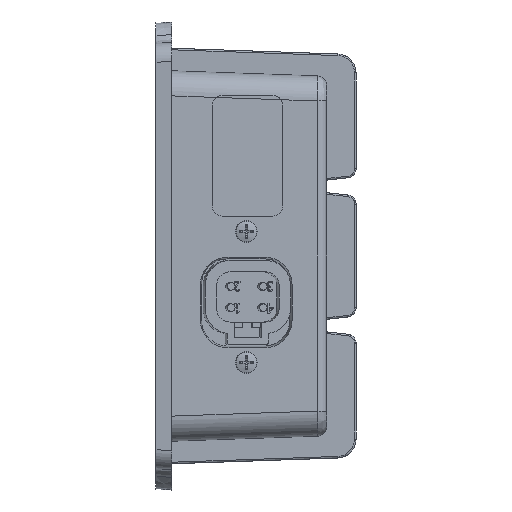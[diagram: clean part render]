
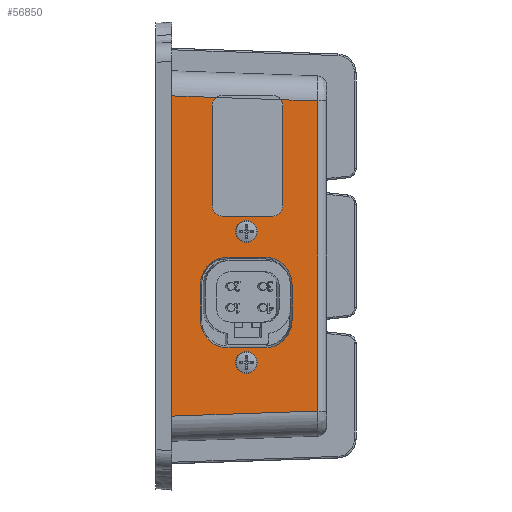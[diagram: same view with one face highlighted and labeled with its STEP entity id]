
A CAD part, left-side view. The second image highlights one B-rep face of the part: STEP entity #56850.
In plain terms, the highlighted planar face has unit normal (-0.999, -0.035, 0).
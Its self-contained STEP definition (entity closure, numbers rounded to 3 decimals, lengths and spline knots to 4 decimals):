
#598=FACE_BOUND('',#16203,.T.);
#599=FACE_BOUND('',#16204,.T.);
#600=FACE_BOUND('',#16205,.T.);
#8362=CIRCLE('',#59204,0.125);
#8365=CIRCLE('',#59209,0.125);
#8367=CIRCLE('',#59213,0.125);
#8370=CIRCLE('',#59218,0.125);
#8454=CIRCLE('',#59442,0.135);
#8476=CIRCLE('',#59499,0.135);
#9444=CIRCLE('',#62933,0.342);
#9445=CIRCLE('',#62934,0.342);
#9446=CIRCLE('',#62935,0.342);
#9447=CIRCLE('',#62936,0.342);
#12669=FACE_OUTER_BOUND('',#16202,.T.);
#16202=EDGE_LOOP('',(#51927,#51928,#51929,#51930,#51931,#51932,#51933,#51934,
#51935,#51936,#51937,#51938));
#16203=EDGE_LOOP('',(#51939));
#16204=EDGE_LOOP('',(#51940));
#16205=EDGE_LOOP('',(#51941,#51942,#51943,#51944,#51945,#51946,#51947,#51948));
#17791=LINE('',#104095,#21580);
#17795=LINE('',#104107,#21584);
#17799=LINE('',#104119,#21588);
#17899=LINE('',#105345,#21688);
#18543=LINE('',#108930,#22332);
#18936=LINE('',#110360,#22725);
#18937=LINE('',#110362,#22726);
#20069=LINE('',#127421,#23858);
#20071=LINE('',#127459,#23860);
#20072=LINE('',#127463,#23861);
#20073=LINE('',#127467,#23862);
#20074=LINE('',#127471,#23863);
#21580=VECTOR('',#68891,0.3937);
#21584=VECTOR('',#68903,0.3937);
#21588=VECTOR('',#68915,0.3937);
#21688=VECTOR('',#69637,0.3937);
#22332=VECTOR('',#71219,0.3937);
#22725=VECTOR('',#72344,0.3937);
#22726=VECTOR('',#72345,0.3937);
#23858=VECTOR('',#78613,0.3937);
#23860=VECTOR('',#78623,0.3937);
#23861=VECTOR('',#78626,0.3937);
#23862=VECTOR('',#78629,0.3937);
#23863=VECTOR('',#78632,0.3937);
#25726=VERTEX_POINT('',#104083);
#25727=VERTEX_POINT('',#104085);
#25730=VERTEX_POINT('',#104093);
#25732=VERTEX_POINT('',#104099);
#25734=VERTEX_POINT('',#104105);
#25736=VERTEX_POINT('',#104111);
#25738=VERTEX_POINT('',#104117);
#25741=VERTEX_POINT('',#104125);
#25925=VERTEX_POINT('',#105049);
#25967=VERTEX_POINT('',#105260);
#26008=VERTEX_POINT('',#105342);
#26009=VERTEX_POINT('',#105344);
#26865=VERTEX_POINT('',#108928);
#27537=VERTEX_POINT('',#110361);
#28715=VERTEX_POINT('',#127457);
#28716=VERTEX_POINT('',#127458);
#28717=VERTEX_POINT('',#127460);
#28718=VERTEX_POINT('',#127462);
#28719=VERTEX_POINT('',#127464);
#28720=VERTEX_POINT('',#127466);
#28721=VERTEX_POINT('',#127468);
#28722=VERTEX_POINT('',#127470);
#31661=EDGE_CURVE('',#25727,#25726,#8362,.T.);
#31666=EDGE_CURVE('',#25726,#25730,#17791,.T.);
#31669=EDGE_CURVE('',#25730,#25732,#8365,.T.);
#31672=EDGE_CURVE('',#25732,#25734,#17795,.T.);
#31675=EDGE_CURVE('',#25734,#25736,#8367,.T.);
#31678=EDGE_CURVE('',#25736,#25738,#17799,.T.);
#31682=EDGE_CURVE('',#25738,#25741,#8370,.T.);
#31957=EDGE_CURVE('',#25925,#25925,#8454,.T.);
#32019=EDGE_CURVE('',#25967,#25967,#8476,.T.);
#32060=EDGE_CURVE('',#26009,#26008,#17899,.T.);
#33128=EDGE_CURVE('',#26865,#26008,#18543,.T.);
#33852=EDGE_CURVE('',#26009,#25741,#18936,.T.);
#33853=EDGE_CURVE('',#25727,#27537,#18937,.T.);
#36539=EDGE_CURVE('',#27537,#26865,#20069,.T.);
#36542=EDGE_CURVE('',#28715,#28716,#20071,.T.);
#36543=EDGE_CURVE('',#28717,#28716,#9444,.T.);
#36544=EDGE_CURVE('',#28717,#28718,#20072,.T.);
#36545=EDGE_CURVE('',#28719,#28718,#9445,.T.);
#36546=EDGE_CURVE('',#28719,#28720,#20073,.T.);
#36547=EDGE_CURVE('',#28721,#28720,#9446,.T.);
#36548=EDGE_CURVE('',#28721,#28722,#20074,.T.);
#36549=EDGE_CURVE('',#28715,#28722,#9447,.T.);
#51927=ORIENTED_EDGE('',*,*,#31682,.T.);
#51928=ORIENTED_EDGE('',*,*,#33852,.F.);
#51929=ORIENTED_EDGE('',*,*,#32060,.T.);
#51930=ORIENTED_EDGE('',*,*,#33128,.F.);
#51931=ORIENTED_EDGE('',*,*,#36539,.F.);
#51932=ORIENTED_EDGE('',*,*,#33853,.F.);
#51933=ORIENTED_EDGE('',*,*,#31661,.T.);
#51934=ORIENTED_EDGE('',*,*,#31666,.T.);
#51935=ORIENTED_EDGE('',*,*,#31669,.T.);
#51936=ORIENTED_EDGE('',*,*,#31672,.T.);
#51937=ORIENTED_EDGE('',*,*,#31675,.T.);
#51938=ORIENTED_EDGE('',*,*,#31678,.T.);
#51939=ORIENTED_EDGE('',*,*,#31957,.T.);
#51940=ORIENTED_EDGE('',*,*,#32019,.T.);
#51941=ORIENTED_EDGE('',*,*,#36542,.T.);
#51942=ORIENTED_EDGE('',*,*,#36543,.F.);
#51943=ORIENTED_EDGE('',*,*,#36544,.T.);
#51944=ORIENTED_EDGE('',*,*,#36545,.F.);
#51945=ORIENTED_EDGE('',*,*,#36546,.T.);
#51946=ORIENTED_EDGE('',*,*,#36547,.F.);
#51947=ORIENTED_EDGE('',*,*,#36548,.T.);
#51948=ORIENTED_EDGE('',*,*,#36549,.F.);
#53639=PLANE('',#62932);
#56850=ADVANCED_FACE('',(#12669,#598,#599,#600),#53639,.T.);
#59204=AXIS2_PLACEMENT_3D('',#104086,#68882,#68883);
#59209=AXIS2_PLACEMENT_3D('',#104101,#68897,#68898);
#59213=AXIS2_PLACEMENT_3D('',#104113,#68909,#68910);
#59218=AXIS2_PLACEMENT_3D('',#104127,#68923,#68924);
#59442=AXIS2_PLACEMENT_3D('',#105050,#69446,#69447);
#59499=AXIS2_PLACEMENT_3D('',#105261,#69568,#69569);
#62932=AXIS2_PLACEMENT_3D('',#127456,#78621,#78622);
#62933=AXIS2_PLACEMENT_3D('',#127461,#78624,#78625);
#62934=AXIS2_PLACEMENT_3D('',#127465,#78627,#78628);
#62935=AXIS2_PLACEMENT_3D('',#127469,#78630,#78631);
#62936=AXIS2_PLACEMENT_3D('',#127472,#78633,#78634);
#68882=DIRECTION('center_axis',(0.999,0.035,0.));
#68883=DIRECTION('ref_axis',(0.035,-0.999,0.));
#68891=DIRECTION('',(0.,0.,-1.));
#68897=DIRECTION('center_axis',(0.999,0.035,0.));
#68898=DIRECTION('ref_axis',(0.,0.,
-1.));
#68903=DIRECTION('',(-0.035,0.999,0.));
#68909=DIRECTION('center_axis',(0.999,0.035,0.));
#68910=DIRECTION('ref_axis',(-0.035,0.999,0.));
#68915=DIRECTION('',(0.,0.,1.));
#68923=DIRECTION('center_axis',(0.999,0.035,0.));
#68924=DIRECTION('ref_axis',(0.,0.,
1.));
#69446=DIRECTION('center_axis',(0.999,0.035,0.));
#69447=DIRECTION('ref_axis',(-0.035,0.999,0.));
#69568=DIRECTION('center_axis',(0.999,0.035,0.));
#69569=DIRECTION('ref_axis',(-0.035,0.999,0.));
#69637=DIRECTION('',(0.,0.,-1.));
#71219=DIRECTION('',(-0.035,0.999,-0.035));
#72344=DIRECTION('',(0.035,-0.999,-0.035));
#72345=DIRECTION('',(0.035,-0.999,-0.035));
#78613=DIRECTION('',(0.,0.,-1.));
#78621=DIRECTION('center_axis',(-0.999,-0.035,0.));
#78622=DIRECTION('ref_axis',(0.,0.,1.));
#78623=DIRECTION('',(0.,0.,1.));
#78624=DIRECTION('center_axis',(-0.999,-0.035,0.));
#78625=DIRECTION('ref_axis',(-0.025,0.707,0.707));
#78626=DIRECTION('',(0.035,-0.999,0.));
#78627=DIRECTION('center_axis',(-0.999,-0.035,0.));
#78628=DIRECTION('ref_axis',(0.025,-0.707,0.707));
#78629=DIRECTION('',(0.,0.,-1.));
#78630=DIRECTION('center_axis',(-0.999,-0.035,0.));
#78631=DIRECTION('ref_axis',(0.025,-0.707,-0.707));
#78632=DIRECTION('',(-0.035,0.999,0.));
#78633=DIRECTION('center_axis',(-0.999,-0.035,0.));
#78634=DIRECTION('ref_axis',(-0.025,0.707,-0.707));
#104083=CARTESIAN_POINT('',(-3.7382,0.4556,1.8726));
#104085=CARTESIAN_POINT('',(-3.739,0.4788,1.9452));
#104086=CARTESIAN_POINT('Origin',(-3.7425,0.5805,1.8726));
#104093=CARTESIAN_POINT('',(-3.7382,0.4556,0.6226));
#104095=CARTESIAN_POINT('',(-3.7382,0.4556,2.0551));
#104099=CARTESIAN_POINT('',(-3.7425,0.5805,0.4976));
#104101=CARTESIAN_POINT('Origin',(-3.7425,0.5805,0.6226));
#104105=CARTESIAN_POINT('',(-3.7643,1.2052,0.4976));
#104107=CARTESIAN_POINT('',(-3.7324,0.2902,0.4976));
#104111=CARTESIAN_POINT('',(-3.7687,1.3301,0.6226));
#104113=CARTESIAN_POINT('Origin',(-3.7643,1.2052,0.6226));
#104117=CARTESIAN_POINT('',(-3.7687,1.3301,1.8726));
#104119=CARTESIAN_POINT('',(-3.7687,1.3301,1.4301));
#104125=CARTESIAN_POINT('',(-3.7669,1.2794,1.9731));
#104127=CARTESIAN_POINT('Origin',(-3.7643,1.2052,1.8726));
#105049=CARTESIAN_POINT('',(-3.7587,1.0425,0.305));
#105050=CARTESIAN_POINT('Origin',(-3.7539,0.9076,0.305));
#105260=CARTESIAN_POINT('',(-3.7587,1.0425,-1.325));
#105261=CARTESIAN_POINT('Origin',(-3.7539,0.9076,-1.325));
#105342=CARTESIAN_POINT('',(-3.7863,1.835,-1.9925));
#105344=CARTESIAN_POINT('',(-3.7863,1.835,1.9925));
#105345=CARTESIAN_POINT('',(-3.7863,1.835,1.1188));
#108928=CARTESIAN_POINT('',(-3.723,0.021,-1.9292));
#108930=CARTESIAN_POINT('',(-3.7199,-0.0672,-1.9261));
#110360=CARTESIAN_POINT('',(-3.7181,-0.1188,1.9243));
#110361=CARTESIAN_POINT('',(-3.723,0.021,1.9292));
#110362=CARTESIAN_POINT('',(-3.7181,-0.1188,1.9243));
#127421=CARTESIAN_POINT('',(-3.723,0.021,2.2375));
#127456=CARTESIAN_POINT('Origin',(-3.7222,-0.0001,
2.2375));
#127457=CARTESIAN_POINT('',(-3.7738,1.4773,-0.8));
#127458=CARTESIAN_POINT('',(-3.7738,1.4773,-0.356));
#127459=CARTESIAN_POINT('',(-3.7738,1.4773,1.1018));
#127460=CARTESIAN_POINT('',(-3.7619,1.1354,-0.014));
#127461=CARTESIAN_POINT('Origin',(-3.7619,1.1354,-0.356));
#127462=CARTESIAN_POINT('',(-3.746,0.6797,-0.014));
#127463=CARTESIAN_POINT('',(-3.7285,0.1789,-0.014));
#127464=CARTESIAN_POINT('',(-3.734,0.3379,-0.356));
#127465=CARTESIAN_POINT('Origin',(-3.746,0.6797,-0.356));
#127466=CARTESIAN_POINT('',(-3.734,0.3379,-0.8));
#127467=CARTESIAN_POINT('',(-3.734,0.3379,0.5578));
#127468=CARTESIAN_POINT('',(-3.746,0.6797,-1.142));
#127469=CARTESIAN_POINT('Origin',(-3.746,0.6797,-0.8));
#127470=CARTESIAN_POINT('',(-3.7619,1.1354,-1.142));
#127471=CARTESIAN_POINT('',(-3.7477,0.7286,-1.142));
#127472=CARTESIAN_POINT('Origin',(-3.7619,1.1354,-0.8));
